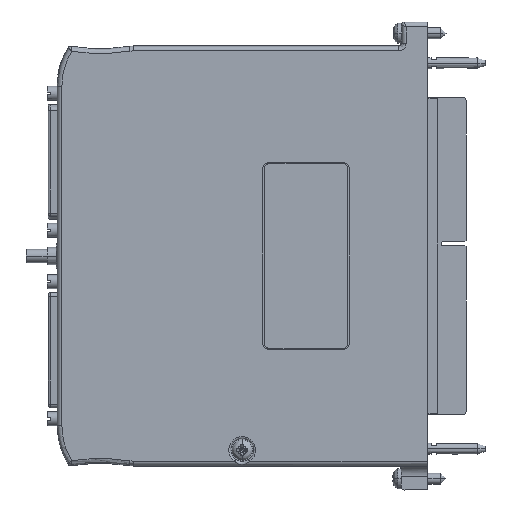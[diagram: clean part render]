
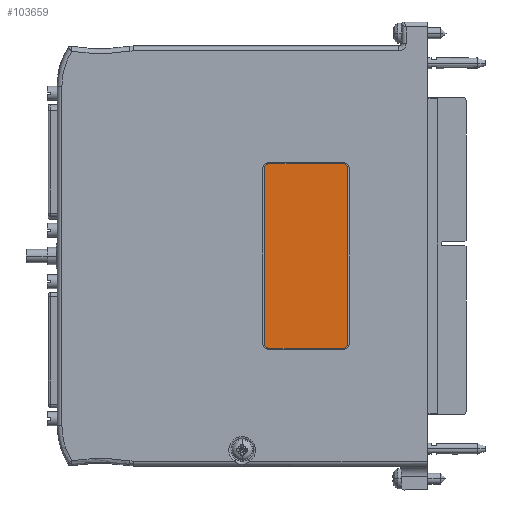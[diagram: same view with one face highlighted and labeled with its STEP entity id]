
A CAD part, front view. The second image highlights one B-rep face of the part: STEP entity #103659.
In plain terms, the highlighted planar face has unit normal (0, -1, 0).
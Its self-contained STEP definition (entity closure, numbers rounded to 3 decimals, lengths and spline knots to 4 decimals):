
#21552=CARTESIAN_POINT('',(-1.1201,-0.632,-0.938));
#21553=DIRECTION('',(0.,-1.,0.));
#21554=DIRECTION('',(-1.,0.,0.));
#21555=AXIS2_PLACEMENT_3D('',#21552,#21553,#21554);
#21557=DIRECTION('',(0.,0.,-1.));
#21558=VECTOR('',#21557,1.876);
#21559=CARTESIAN_POINT('',(-1.1821,-0.632,0.938));
#21560=LINE('',#21559,#21558);
#21561=CARTESIAN_POINT('',(-1.1201,-0.632,0.938));
#21562=DIRECTION('',(0.,-1.,0.));
#21563=DIRECTION('',(0.,0.,1.));
#21564=AXIS2_PLACEMENT_3D('',#21561,#21562,#21563);
#21566=DIRECTION('',(-1.,0.,0.));
#21567=VECTOR('',#21566,0.782);
#21568=CARTESIAN_POINT('',(-0.3381,-0.632,1.0001));
#21569=LINE('',#21568,#21567);
#21570=CARTESIAN_POINT('',(-0.3381,-0.632,0.9381));
#21571=DIRECTION('',(0.,-1.,0.));
#21572=DIRECTION('',(1.,0.,0.));
#21573=AXIS2_PLACEMENT_3D('',#21570,#21571,#21572);
#21575=DIRECTION('',(0.,0.,1.));
#21576=VECTOR('',#21575,1.876);
#21577=CARTESIAN_POINT('',(-0.2761,-0.632,-0.9379));
#21578=LINE('',#21577,#21576);
#21579=CARTESIAN_POINT('',(-0.3381,-0.632,-0.9379));
#21580=DIRECTION('',(0.,-1.,0.));
#21581=DIRECTION('',(0.,0.,-1.));
#21582=AXIS2_PLACEMENT_3D('',#21579,#21580,#21581);
#21584=DIRECTION('',(1.,0.,0.));
#21585=VECTOR('',#21584,0.782);
#21586=CARTESIAN_POINT('',(-1.1201,-0.632,-1.));
#21587=LINE('',#21586,#21585);
#82071=CARTESIAN_POINT('',(-1.1821,-0.632,-0.938));
#82072=CARTESIAN_POINT('',(-1.1201,-0.632,-1.));
#82073=VERTEX_POINT('',#82071);
#82074=VERTEX_POINT('',#82072);
#82075=CARTESIAN_POINT('',(-1.1201,-0.632,1.));
#82076=CARTESIAN_POINT('',(-1.1821,-0.632,0.938));
#82077=VERTEX_POINT('',#82075);
#82078=VERTEX_POINT('',#82076);
#82079=CARTESIAN_POINT('',(-0.2761,-0.632,0.9381));
#82080=CARTESIAN_POINT('',(-0.3381,-0.632,1.0001));
#82081=VERTEX_POINT('',#82079);
#82082=VERTEX_POINT('',#82080);
#82083=CARTESIAN_POINT('',(-0.3381,-0.632,-0.9999));
#82084=CARTESIAN_POINT('',(-0.2761,-0.632,-0.9379));
#82085=VERTEX_POINT('',#82083);
#82086=VERTEX_POINT('',#82084);
#103644=CARTESIAN_POINT('',(-1.1821,-0.632,1.));
#103645=DIRECTION('',(0.,-1.,0.));
#103646=DIRECTION('',(0.,0.,-1.));
#103647=AXIS2_PLACEMENT_3D('',#103644,#103645,#103646);
#103648=PLANE('',#103647);
#103649=ORIENTED_EDGE('',*,*,#103638,.F.);
#103650=ORIENTED_EDGE('',*,*,#103540,.F.);
#103651=ORIENTED_EDGE('',*,*,#103555,.F.);
#103652=ORIENTED_EDGE('',*,*,#103569,.F.);
#103653=ORIENTED_EDGE('',*,*,#103583,.F.);
#103654=ORIENTED_EDGE('',*,*,#103597,.F.);
#103655=ORIENTED_EDGE('',*,*,#103611,.F.);
#103656=ORIENTED_EDGE('',*,*,#103625,.F.);
#103657=EDGE_LOOP('',(#103649,#103650,#103651,#103652,#103653,#103654,#103655,
#103656));
#103658=FACE_OUTER_BOUND('',#103657,.F.);
#103659=ADVANCED_FACE('',(#103658),#103648,.T.);
#21556=CIRCLE('',#21555,0.062);
#21565=CIRCLE('',#21564,0.062);
#21574=CIRCLE('',#21573,0.062);
#21583=CIRCLE('',#21582,0.062);
#103540=EDGE_CURVE('',#82078,#82073,#21560,.T.);
#103555=EDGE_CURVE('',#82077,#82078,#21565,.T.);
#103569=EDGE_CURVE('',#82082,#82077,#21569,.T.);
#103583=EDGE_CURVE('',#82081,#82082,#21574,.T.);
#103597=EDGE_CURVE('',#82086,#82081,#21578,.T.);
#103611=EDGE_CURVE('',#82085,#82086,#21583,.T.);
#103625=EDGE_CURVE('',#82074,#82085,#21587,.T.);
#103638=EDGE_CURVE('',#82073,#82074,#21556,.T.);
